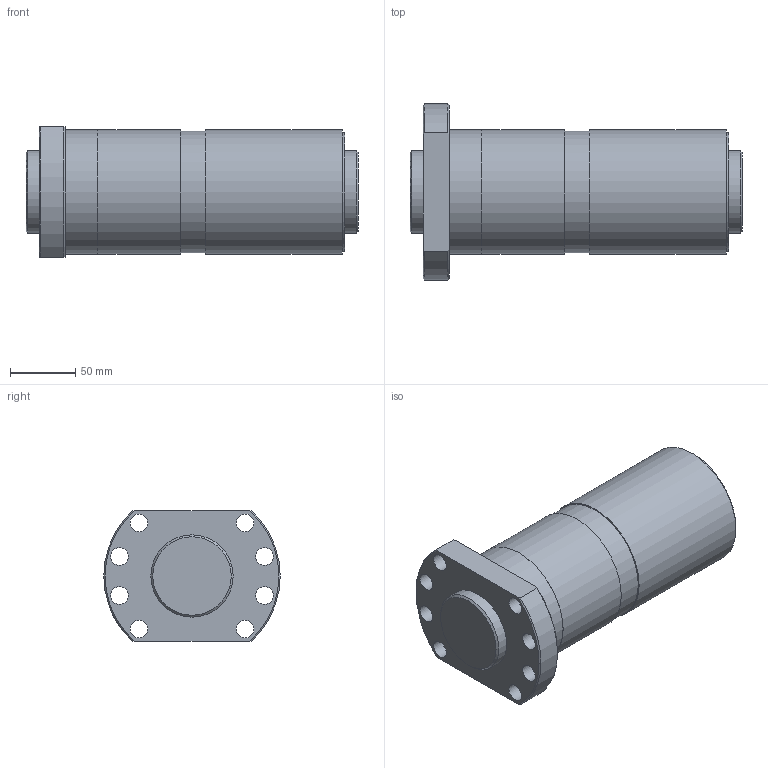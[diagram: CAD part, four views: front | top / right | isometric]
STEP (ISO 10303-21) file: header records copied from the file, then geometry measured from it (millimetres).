
FILE_DESCRIPTION(/* description */ ('STEP AP203'),/* implementation_level */ '2;1');
FILE_NAME(/* name */ 'SDAN6325VX-4G0+254LC0(0G000)',/* time_stamp */ '2024-07-04T10:23:26+02:00',/* author */ ('License CC BY-ND 4.0'),/* organization */ ('CADENAS'),/* preprocessor_version */ 'ST-DEVELOPER v19.3',/* originating_system */ 'PARTsolutions',/* authorisation */ ' ');
FILE_SCHEMA (('CONFIG_CONTROL_DESIGN'));
Length unit declared in the file: millimetre
Products named in the file (3): SDAN6325VX-4G0+254LC0(0G000); 0SDAN6325VX-40Shaft; SDAN6325VX-4_nut
Assembly tree (2 placements, depth 2):
  SDAN6325VX-4G0+254LC0(0G000)
    0SDAN6325VX-40Shaft
    SDAN6325VX-4_nut
Bounding box: 254 x 135 x 100 mm (x, y, z)
Volume: 1790500.2 mm3; surface area: 198451.8 mm2
Topology: 2 solids, 2 shells, 39 faces, 84 edges, 55 vertices
Faces by surface type: cylinder 20, plane 12, cone 7
Full cylindrical faces by diameter (mm): 5.2 x1, 6.917 x1, 13.5 x8, 63 x2, 91 x1, 93 x1, 93.1 x1, 95 x3
Entity records: 1103 total; most frequent: CARTESIAN_POINT 202, DIRECTION 180, ORIENTED_EDGE 124, EDGE_LOOP 86, FACE_BOUND 86, AXIS2_PLACEMENT_3D 86, EDGE_CURVE 62, VERTEX_POINT 54
